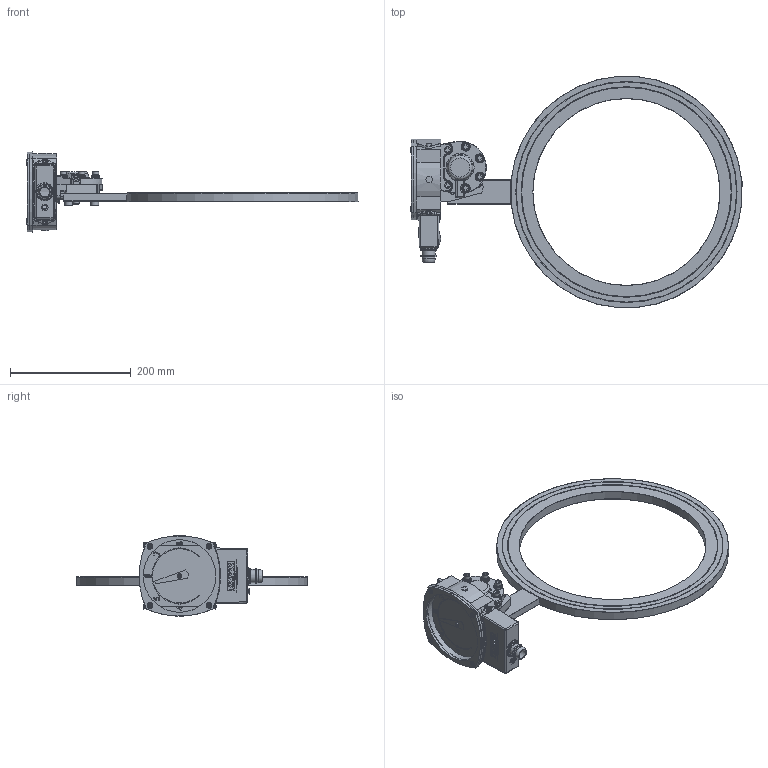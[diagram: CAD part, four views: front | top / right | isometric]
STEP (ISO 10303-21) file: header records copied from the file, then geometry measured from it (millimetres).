
FILE_DESCRIPTION(/* description */ ('Alibre Inc.'),/* implementation_level */ '2;1');
FILE_NAME(/* name */ 'export0',/* time_stamp */ '2012-10-19T13:43:15+02:00',/* author */ (''),/* organization */ (''),/* preprocessor_version */ 'ST-DEVELOPER v14',/* originating_system */ 'Alibre',/* authorisation */ '');
FILE_SCHEMA (('CONFIG_CONTROL_DESIGN'));
Length unit declared in the file: centimetre
Products named in the file (19): ID_1; ID_2; ID_3; ID_4; ID_5; ID_6; ID_7; ID_8; ID_9; ID_10; ID_11; ID_12; ID_13; ID_14; ID_15
Bounding box: 550.82 x 383.85 x 132.74 mm (x, y, z)
Volume: 1083917.9 mm3; surface area: 340090.8 mm2
Topology: 31 solids, 31 shells, 1723 faces, 4150 edges, 2558 vertices
Faces by surface type: plane 766, bspline 365, cylinder 322, torus 158, cone 86, sphere 26
Full cylindrical faces by diameter (mm): 3.9 x2, 5 x18, 5.2 x2, 5.5 x5, 5.541 x2, 6 x28, 6.35 x2, 6.5 x7, 8 x7, 8.5 x2, 9.6 x6, 10 x11, 10.5 x1, 12 x3, 13 x2, 14 x3, 16 x1, 19.5 x1, 22 x2, 22.5 x4, 25 x1, 29 x1, 31 x1, 120.5 x3, 123.4 x1, 129 x1, 310 x1, 348 x2, 349 x2, 366 x2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
Entity records: 60556 total; most frequent: CARTESIAN_POINT 28551, ORIENTED_EDGE 6474, DIRECTION 4845, EDGE_CURVE 3237, VERTEX_POINT 2118, AXIS2_PLACEMENT_3D 2016, EDGE_LOOP 1787, FACE_BOUND 1787
